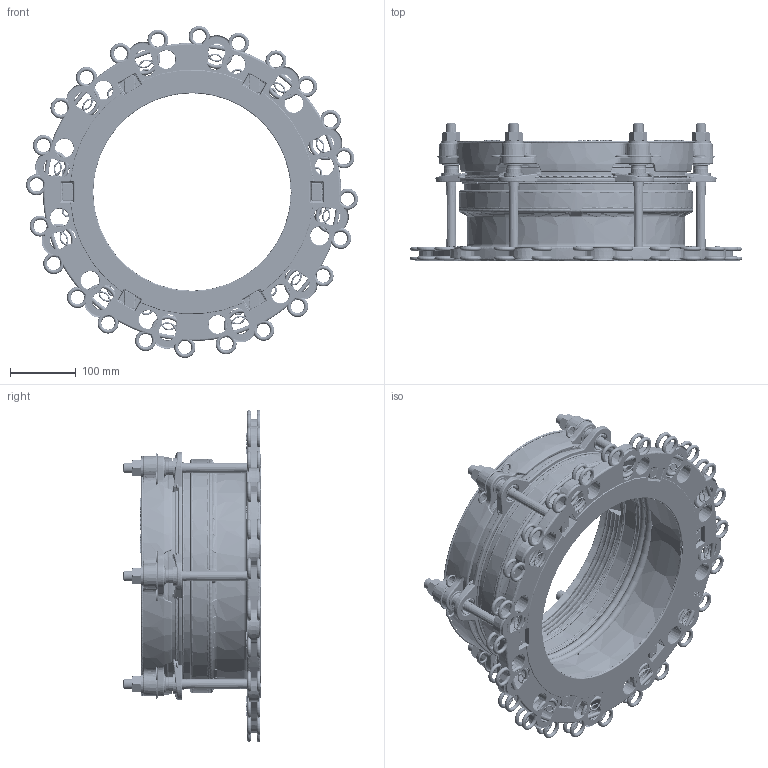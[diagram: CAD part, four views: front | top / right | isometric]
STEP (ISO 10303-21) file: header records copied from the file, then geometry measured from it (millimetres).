
FILE_DESCRIPTION((''),'2;1');
FILE_NAME('13383_13','2014-12-16T',('rburgess'),('Viking Johnson'),'PRO/ENGINEER BY PARAMETRIC TECHNOLOGY CORPORATION, 2006020','PRO/ENGINEER BY PARAMETRIC TECHNOLOGY CORPORATION, 2006020','');
FILE_SCHEMA(('CONFIG_CONTROL_DESIGN'));
Products named in the file (1): 13383_13
Bounding box: 504.4 x 210.13 x 504.4 mm (x, y, z)
Surface area: 2485796.4 mm2 (no closed solid volume)
Topology: 0 solids, 0 shells, 6582 faces, 35100 edges, 34572 vertices
Faces by surface type: bspline 5757, torus 709, sphere 116
Entity records: 489677 total; most frequent: CARTESIAN_POINT 179570, DIRECTION 48821, TRIMMED_CURVE 43916, VECTOR 40661, LINE 40661, DEFINITIONAL_REPRESENTATION 34032, PCURVE 34032, COMPOSITE_CURVE_SEGMENT 34032
